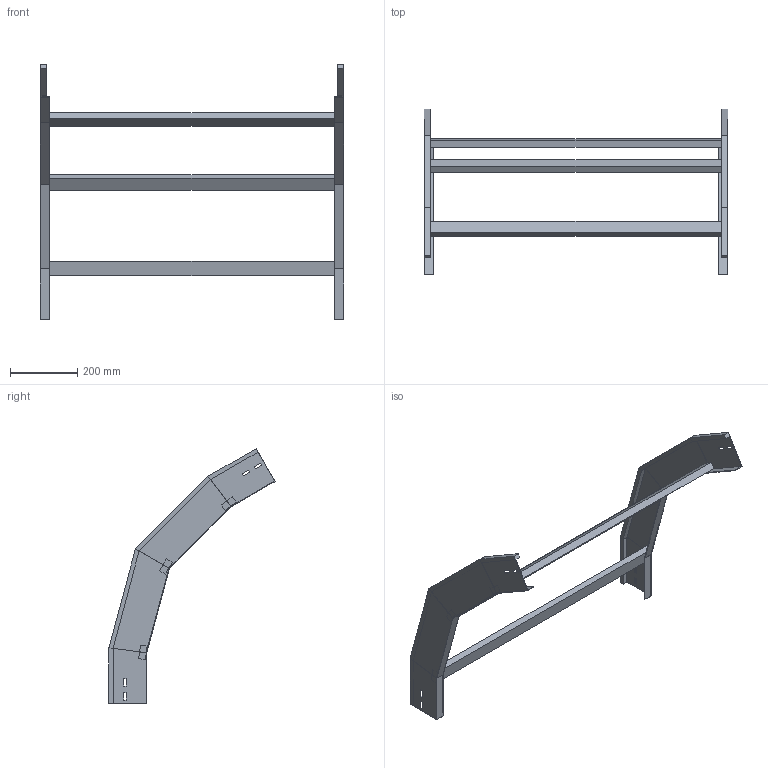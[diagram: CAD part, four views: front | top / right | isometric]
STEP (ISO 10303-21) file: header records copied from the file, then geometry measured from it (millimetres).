
FILE_DESCRIPTION (( 'STEP AP214' ), '1' );
FILE_NAME ('41B5J900.step', '2025-02-21T14:58:04', ( '' ), ( '' ), 'SwSTEP 2.0', 'SolidWorks 2023', '' );
FILE_SCHEMA (( 'AUTOMOTIVE_DESIGN' ));
Length unit declared in the file: millimetre
Products named in the file (3): LONGH.DISCESA_60°_H112.5_R500; TRAVERSINO_900; 41B5J900
Assembly tree (5 placements, depth 2):
  41B5J900
    LONGH.DISCESA_60°_H112.5_R500  x2
    TRAVERSINO_900  x3
Bounding box: 900 x 492.58 x 755.74 mm (x, y, z)
Volume: 3009281.3 mm3; surface area: 873957.2 mm2
Topology: 5 solids, 5 shells, 118 faces, 276 edges, 168 vertices
Faces by surface type: plane 118
Entity records: 1672 total; most frequent: CARTESIAN_POINT 276, ORIENTED_EDGE 264, DIRECTION 260, EDGE_CURVE 132, VECTOR 132, LINE 132, VERTEX_POINT 80, EDGE_LOOP 64
